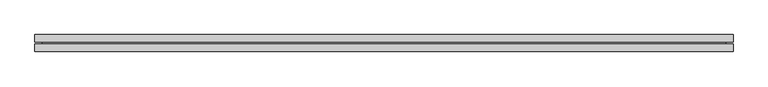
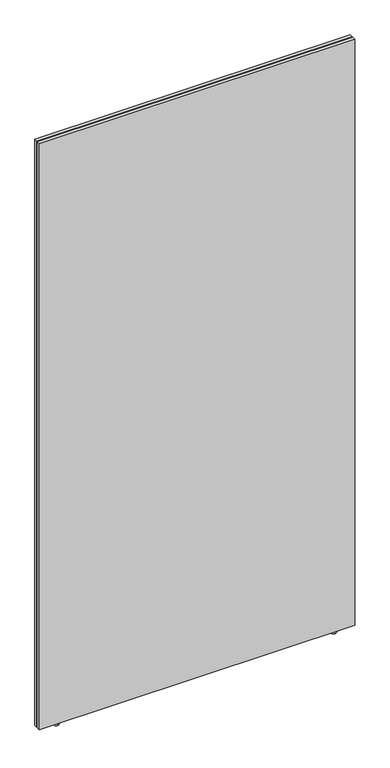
"""IFC4 building model written with IfcOpenShell, lengths in millimetres: furniture geometry, Geiger_GeigerOneCasegoods_WallFrameStandardApplication : 42Wx1Dx82.5H."""

from ifc_helpers import new_model, si_unit, point, frame, origin, place, context, project, spatial, circle_curve, ellipse_curve, trimmed, faceted_brep, source, transform, mapped, element, save
from ifc_brep_helpers import plane_surface, cylinder_surface, revolved_surface, advanced_brep


def furniture_67171f7c(model_context):
    return source(origin(), model_context, "Body", "SolidModel", [
        faceted_brep([(1066.8, -26.0, 12.7), (1066.8, -26.0, 2108.2), (0.0, -26.0, 2108.2), (0.0, -26.0, 12.7), (1066.8, 0.0, 2108.2), (1066.8, 0.0, 12.7), (0.0, 0.0, 12.7), (0.0, 0.0, 2108.2), (1066.8, -14.5, 2108.2), (1066.8, -14.5, 12.7), (1055.8, -11.5, 2097.2), (1055.8, -14.5, 2097.2), (1055.8, -14.5, 23.7), (1055.8, -11.5, 23.7), (1066.8, -11.5, 2108.2), (1066.8, -11.5, 12.7), (0.0, -14.5, 12.7), (11.0, -14.5, 23.7), (11.0, -11.5, 23.7), (0.0, -11.5, 12.7), (0.0, -14.5, 2108.2), (11.0, -14.5, 2097.2), (11.0, -11.5, 2097.2), (0.0, -11.5, 2108.2)], [[[0, 1, 2, 3]], [[4, 5, 6, 7]], [[8, 1, 0, 9]], [[10, 11, 12, 13]], [[4, 14, 15, 5]], [[9, 0, 3, 16]], [[13, 12, 17, 18]], [[5, 15, 19, 6]], [[16, 3, 2, 20]], [[18, 17, 21, 22]], [[6, 19, 23, 7]], [[1, 8, 20, 2]], [[8, 9, 16, 20], [12, 11, 21, 17]], [[11, 10, 22, 21]], [[15, 14, 23, 19], [10, 13, 18, 22]], [[14, 4, 7, 23]]]),
        advanced_brep(
        [(1002.8, -13.0, 0.0), (1002.8, -8.2612423, 0.0), (1002.8, -17.7387577, 0.0), (1002.8, -7.1362597, 9.4), (1002.8, -18.8637403, 9.4), (1002.8, -5.75, 9.4), (1002.8, -20.25, 9.4), (1002.8, -5.75, 12.7), (1002.8, -20.25, 12.7), (1002.8, -13.0, 12.7)],
        [
            (0, 1),
            (1, 2, circle_curve(frame((1002.8, -13.0, 0.0), z_axis=(0.0, 0.0, -1.0), x_axis=(0.0, 1.0, 0.0)), 4.7387577)),
            (2, 0),
            (2, 1, circle_curve(frame((1002.8, -13.0, 0.0), z_axis=(0.0, 0.0, -1.0), x_axis=(0.0, 1.0, 0.0)), 4.7387577)),
            (1, 3, circle_curve(frame((1002.8, -8.2612423, 4.7673184), z_axis=(1.0, 0.0, 0.0), x_axis=(0.0, 1.0, 0.0)), 4.7673184)),
            (3, 4, circle_curve(frame((1002.8, -13.0, 9.4), z_axis=(0.0, 0.0, -1.0), x_axis=(0.0, 1.0, 0.0)), 5.8637403)),
            (4, 2, circle_curve(frame((1002.8, -17.7387577, 4.7673184), z_axis=(1.0, 0.0, 0.0), x_axis=(0.0, -1.0, 0.0)), 4.7673184)),
            (4, 3, circle_curve(frame((1002.8, -13.0, 9.4), z_axis=(0.0, 0.0, -1.0), x_axis=(0.0, 1.0, 0.0)), 5.8637403)),
            (3, 5),
            (5, 6, circle_curve(frame((1002.8, -13.0, 9.4), z_axis=(0.0, 0.0, -1.0), x_axis=(0.0, 1.0, 0.0)), 7.25)),
            (6, 4),
            (6, 5, circle_curve(frame((1002.8, -13.0, 9.4), z_axis=(0.0, 0.0, -1.0), x_axis=(0.0, 1.0, 0.0)), 7.25)),
            (5, 7),
            (7, 8, circle_curve(frame((1002.8, -13.0, 12.7), z_axis=(0.0, 0.0, -1.0), x_axis=(0.0, 1.0, 0.0)), 7.25)),
            (8, 6),
            (8, 7, circle_curve(frame((1002.8, -13.0, 12.7), z_axis=(0.0, 0.0, -1.0), x_axis=(0.0, 1.0, 0.0)), 7.25)),
            (7, 9),
            (9, 8),
        ],
        [
            plane_surface(frame((1002.8, -13.0, 0.0), z_axis=(0.0, 0.0, -1.0), x_axis=(0.0, 1.0, 0.0))),
            revolved_surface(trimmed(ellipse_curve(frame((1002.8, -8.2612423, 4.7673184), z_axis=(-1.0, 0.0, 0.0), x_axis=(0.0, 1.0, 0.0)), 4.7673184, 4.7673184), [point((1002.8, -7.1362597, 9.4))], [point((1002.8, -8.2612423, 0.0))], True, "CARTESIAN"), (1002.8, -13.0, 0.0), (0.0, 0.0, -1.0)),
            plane_surface(frame((1002.8, -13.0, 9.4), z_axis=(0.0, 0.0, -1.0), x_axis=(0.0, 1.0, 0.0))),
            cylinder_surface(frame((1002.8, -13.0, 0.0), z_axis=(0.0, 0.0, -1.0), x_axis=(0.0, 1.0, 0.0)), 7.25),
            plane_surface(frame((1002.8, -13.0, 12.7), z_axis=(0.0, 0.0, 1.0), x_axis=(0.0, 1.0, 0.0))),
        ],
        [
            (0, [[1, 2, 3]]),
            (0, [[-3, 4, -1]]),
            (1, [[-2, 5, 6, 7]]),
            (1, [[-4, -7, 8, -5]]),
            (2, [[-6, 9, 10, 11]]),
            (2, [[-8, -11, 12, -9]]),
            (3, [[-10, 13, 14, 15]]),
            (3, [[-12, -15, 16, -13]]),
            (4, [[-14, 17, 18]]),
            (4, [[-16, -18, -17]]),
        ],
    ),
        advanced_brep(
        [(64.0, -17.7387577, 0.0), (64.0, -8.2612423, 0.0), (64.0, -13.0, 0.0), (64.0, -18.8637403, 9.4), (64.0, -7.1362597, 9.4), (64.0, -20.25, 9.4), (64.0, -5.75, 9.4), (64.0, -20.25, 12.7), (64.0, -5.75, 12.7), (64.0, -13.0, 12.7)],
        [
            (0, 1, circle_curve(frame((64.0, -13.0, 0.0), z_axis=(0.0, 0.0, -1.0), x_axis=(0.0, 1.0, 0.0)), 4.7387577)),
            (1, 2),
            (2, 0),
            (1, 0, circle_curve(frame((64.0, -13.0, 0.0), z_axis=(0.0, 0.0, -1.0), x_axis=(0.0, 1.0, 0.0)), 4.7387577)),
            (3, 4, circle_curve(frame((64.0, -13.0, 9.4), z_axis=(0.0, 0.0, -1.0), x_axis=(0.0, 1.0, 0.0)), 5.8637403)),
            (4, 1, circle_curve(frame((64.0, -8.2612423, 4.7673184), z_axis=(-1.0, 0.0, 0.0), x_axis=(0.0, 1.0, 0.0)), 4.7673184)),
            (0, 3, circle_curve(frame((64.0, -17.7387577, 4.7673184), z_axis=(-1.0, 0.0, 0.0), x_axis=(0.0, -1.0, 0.0)), 4.7673184)),
            (4, 3, circle_curve(frame((64.0, -13.0, 9.4), z_axis=(0.0, 0.0, -1.0), x_axis=(0.0, 1.0, 0.0)), 5.8637403)),
            (5, 6, circle_curve(frame((64.0, -13.0, 9.4), z_axis=(0.0, 0.0, -1.0), x_axis=(0.0, 1.0, 0.0)), 7.25)),
            (6, 4),
            (3, 5),
            (6, 5, circle_curve(frame((64.0, -13.0, 9.4), z_axis=(0.0, 0.0, -1.0), x_axis=(0.0, 1.0, 0.0)), 7.25)),
            (7, 8, circle_curve(frame((64.0, -13.0, 12.7), z_axis=(0.0, 0.0, -1.0), x_axis=(0.0, 1.0, 0.0)), 7.25)),
            (8, 6),
            (5, 7),
            (8, 7, circle_curve(frame((64.0, -13.0, 12.7), z_axis=(0.0, 0.0, -1.0), x_axis=(0.0, 1.0, 0.0)), 7.25)),
            (9, 8),
            (7, 9),
        ],
        [
            plane_surface(frame((64.0, -13.0, 0.0), z_axis=(0.0, 0.0, -1.0), x_axis=(0.0, 1.0, 0.0))),
            revolved_surface(trimmed(ellipse_curve(frame((64.0, -8.2612423, 4.7673184), z_axis=(1.0, 0.0, 0.0), x_axis=(0.0, 1.0, 0.0)), 4.7673184, 4.7673184), [point((64.0, -8.2612423, 0.0))], [point((64.0, -7.1362597, 9.4))], True, "CARTESIAN"), (64.0, -13.0, 0.0), (0.0, 0.0, 1.0)),
            plane_surface(frame((64.0, -13.0, 9.4), z_axis=(0.0, 0.0, -1.0), x_axis=(0.0, 1.0, 0.0))),
            cylinder_surface(frame((64.0, -13.0, 0.0), z_axis=(0.0, 0.0, 1.0), x_axis=(0.0, 1.0, 0.0)), 7.25),
            plane_surface(frame((64.0, -13.0, 12.7), z_axis=(0.0, 0.0, 1.0), x_axis=(0.0, 1.0, 0.0))),
        ],
        [
            (0, [[1, 2, 3]]),
            (0, [[4, -3, -2]]),
            (1, [[5, 6, -1, 7]]),
            (1, [[8, -7, -4, -6]]),
            (2, [[9, 10, -5, 11]]),
            (2, [[12, -11, -8, -10]]),
            (3, [[13, 14, -9, 15]]),
            (3, [[16, -15, -12, -14]]),
            (4, [[17, -13, 18]]),
            (4, [[-18, -16, -17]]),
        ],
    ),
    ])


if __name__ == "__main__":
    model = new_model("IFC4")
    model_context = context("Model", 3, world=origin())
    ifc_project = project(units=[si_unit("LENGTHUNIT", "METRE", prefix="MILLI")], contexts=[model_context])
    site = spatial("IfcSite", under=ifc_project)
    building = spatial("IfcBuilding", under=site)
    placement = place(None, origin())
    furniture_shape = furniture_67171f7c(model_context)
    element("IfcFurniture", 1, ObjectType="Geiger_GeigerOneCasegoods_WallFrameStandardApplication : 42Wx1Dx82.5H", at=placement, inside=building, context=model_context, shape_type="MappedRepresentation", body=[
        mapped(furniture_shape, transform((0.0, 0.0, 0.0), x_axis=(1.0, 0.0, 0.0), y_axis=(0.0, 1.0, 0.0), z_axis=(0.0, 0.0, 1.0))),
    ])
    save(model, "model.ifc")
